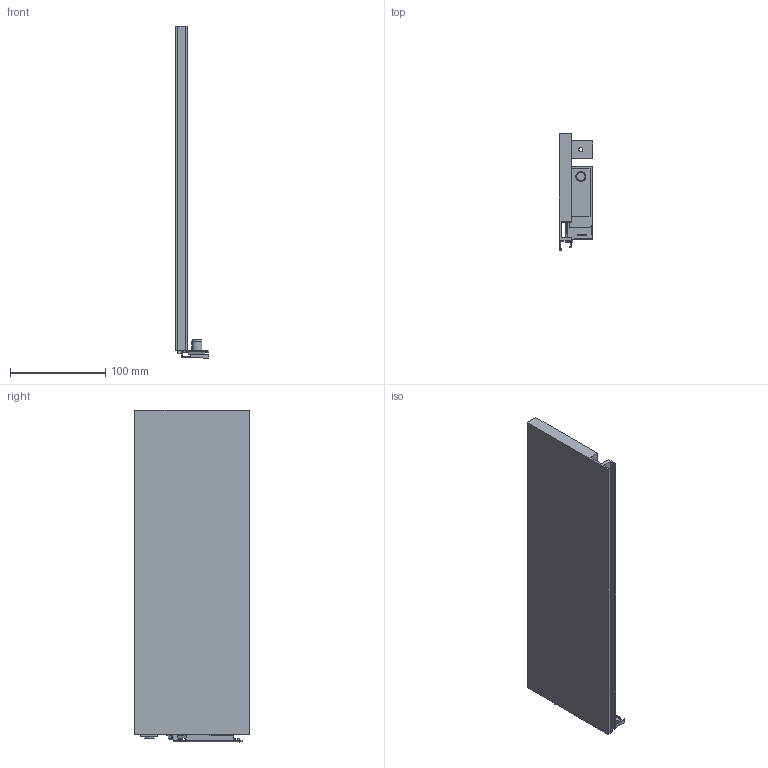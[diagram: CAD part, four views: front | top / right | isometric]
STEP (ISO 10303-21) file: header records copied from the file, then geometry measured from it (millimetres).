
FILE_DESCRIPTION (( 'STEP AP214' ), '1' );
FILE_NAME ('Vionaro_Alu-Zarge_H121_NL350_LI.STEP', '2014-08-18T11:16:48', ( '' ), ( '' ), 'SwSTEP 2.0', 'SolidWorks 2013', '' );
FILE_SCHEMA (( 'AUTOMOTIVE_DESIGN' ));
Length unit declared in the file: millimetre
Products named in the file (1): Vionaro_Alu-Zarge_H121_NL350_LI
Bounding box: 35.61 x 121 x 347.9 mm (x, y, z)
Volume: 454449 mm3; surface area: 115542.8 mm2
Topology: 1 solids, 1 shells, 112 faces, 299 edges, 196 vertices
Faces by surface type: plane 88, cylinder 20, cone 4
Entity records: 3491 total; most frequent: CARTESIAN_POINT 614, ORIENTED_EDGE 598, DIRECTION 569, EDGE_CURVE 299, VECTOR 251, LINE 251, VERTEX_POINT 196, AXIS2_PLACEMENT_3D 159
